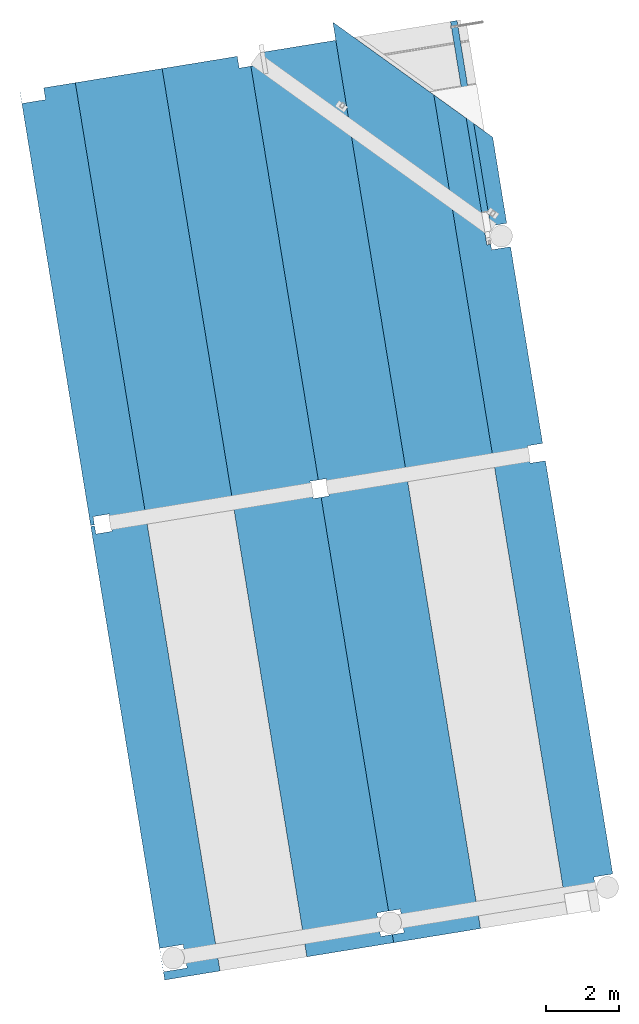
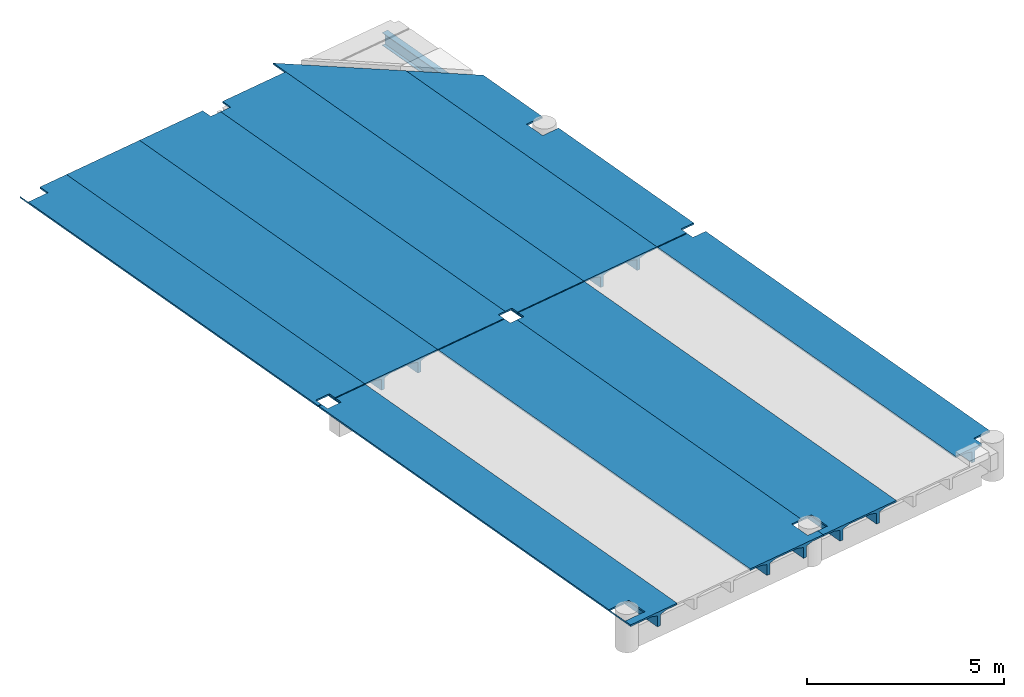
# One storey, part 5 of 5: 11 beams.
"""IFC2X3 building model written with IfcOpenShell, lengths in millimetres."""

from ifc_helpers import new_model, entity, si_unit, converted_unit, derived_unit, direction, frame, origin, origin_with_axes, place, context, subcontext, project, spatial, faceted_brep, material, type_object, element, save


model = new_model("IFC2X3")

# Units and contexts
model_context = context("Model", 3, precision=0.01, world=origin(), true_north=direction((6.12323399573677e-17, 1.0)))
plan_context = context("Plan", 3, precision=1e-05, world=origin_with_axes())
body_context = subcontext(model_context, "Body", "Model", "MODEL_VIEW")
ifc_project = project(units=[converted_unit("PLANEANGLEUNIT", "DEGREE", entity("IfcPositiveLengthMeasure", 0.0174532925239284), si_unit("PLANEANGLEUNIT", "RADIAN"), dimensions=[0, 0, 0, 0, 0, 0, 0]), si_unit("AREAUNIT", "SQUARE_METRE"), si_unit("LENGTHUNIT", "METRE", prefix="MILLI"), si_unit("MASSUNIT", "GRAM", prefix="KILO"), si_unit("POWERUNIT", "WATT"), si_unit("PRESSUREUNIT", "PASCAL", prefix="KILO"), si_unit("FORCEUNIT", "NEWTON", prefix="KILO"), si_unit("ELECTRICVOLTAGEUNIT", "VOLT"), si_unit("ELECTRICCURRENTUNIT", "AMPERE"), si_unit("THERMODYNAMICTEMPERATUREUNIT", "DEGREE_CELSIUS"), si_unit("TIMEUNIT", "SECOND"), si_unit("VOLUMEUNIT", "CUBIC_METRE"), derived_unit("LINEARVELOCITYUNIT", [(si_unit("LENGTHUNIT", "METRE"), 1), (si_unit("TIMEUNIT", "SECOND"), -1)]), derived_unit("VOLUMETRICFLOWRATEUNIT", [(si_unit("VOLUMEUNIT", "CUBIC_METRE"), 1), (si_unit("TIMEUNIT", "SECOND"), -1)]), derived_unit("THERMALTRANSMITTANCEUNIT", [(si_unit("POWERUNIT", "WATT"), 1), (si_unit("THERMODYNAMICTEMPERATUREUNIT", "KELVIN"), -1), (si_unit("AREAUNIT", "SQUARE_METRE"), -1)]), derived_unit("SOUNDPRESSUREUNIT", [(si_unit("PRESSUREUNIT", "PASCAL"), 1)])], contexts=[model_context, plan_context])

# Site, building, storey
site_placement = place(None, frame((5.09380697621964e-08, 5.80416781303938e-08, 0.0), z_axis=(0.0, 0.0, 1.0), x_axis=(-0.160806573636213, 0.986985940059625, 0.0)))
site = spatial("IfcSite", under=ifc_project, at=site_placement, Name="Default", CompositionType="ELEMENT")
building_placement = place(site_placement, frame((0.0, 0.0, 0.0), z_axis=(0.0, 0.0, 1.0), x_axis=(1.0, -2.77555756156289e-17, 0.0)))
building = spatial("IfcBuilding", under=site, at=building_placement, CompositionType="ELEMENT")
storey_placement = place(building_placement, frame((0.0, 0.0, 51360.0000000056), z_axis=(0.0, 0.0, 1.0), x_axis=(1.0, -2.77555756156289e-17, 0.0)))
storey = spatial("IfcBuildingStorey", under=building, at=storey_placement, Name="H01-Nivå D+0,36", CompositionType="ELEMENT", Elevation=51360.0000000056)

# Beams
ifc_material = material(Name="CONCRETE/C45/55")
beam_type_1 = type_object("IfcBeamType", Name="DT450*2400-100-50-1200-0-200-0.3", PredefinedType="NOTDEFINED")
beam_1_placement = place(storey_placement, frame((1004653.56621271, -395180.27532226, 3529.99999999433), z_axis=(0.0, 0.0, 1.0), x_axis=(1.0, -2.77555756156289e-17, 0.0)))
element("IfcBeam", 1, at=beam_1_placement, inside=storey, type_object=beam_type_1, material=ifc_material, Name="DT", ObjectType="DT450*2400-100-50-1200-0-200-0.3", context=body_context, shape_type="Brep", body=[
    faceted_brep([(0.012355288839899, 0.0, 450.0), (0.0, 2400.0, 450.0), (0.0, 2400.0, 400.0), (0.00180181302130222, 2050.0, 400.0), (0.00283142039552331, 1850.0, 340.0), (0.00283142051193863, 1850.0, 0.0), (0.00334622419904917, 1750.0, 0.0), (0.00334622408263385, 1750.0, 340.0), (0.00437583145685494, 1550.0, 400.0), (0.00797945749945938, 850.0, 400.0), (0.00900906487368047, 650.0, 340.0), (0.00900906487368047, 650.0, 0.0), (0.00952386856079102, 550.0, 0.0), (0.00952386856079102, 550.0, 340.0), (0.0105534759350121, 350.0, 400.0), (0.012355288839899, 0.0, 400.0), (12484.9998477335, 2400.06427282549, 400.0), (12484.9998477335, 2400.06427282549, 450.0), (12135.0016688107, 2050.06247102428, 400.0), (11935.0027094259, 1850.06144142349, 340.0), (11935.0027094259, 1850.06144142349, 0.0), (11835.0032297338, 1750.06092662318, 0.0), (11835.0032297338, 1750.06092662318, 340.0), (11635.0042703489, 1550.05989702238, 400.0), (10935.0079125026, 850.056293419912, 400.0), (10735.0089531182, 650.055263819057, 340.0), (10735.0089531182, 650.055263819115, 0.0), (10635.0094734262, 550.054749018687, 0.0), (10635.009473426, 550.054749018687, 340.0), (10435.0105140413, 350.053719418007, 400.0), (10085.0123351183, 0.0519176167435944, 400.0), (10085.0123351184, 0.0519176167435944, 450.0)], [[[0, 1, 2, 3, 4, 5, 6, 7, 8, 9, 10, 11, 12, 13, 14, 15]], [[16, 2, 1, 17]], [[18, 3, 2, 16]], [[19, 4, 3, 18]], [[20, 5, 4, 19]], [[21, 6, 5, 20]], [[22, 7, 6, 21]], [[23, 8, 7, 22]], [[24, 9, 8, 23]], [[25, 10, 9, 24]], [[26, 11, 10, 25]], [[27, 12, 11, 26]], [[28, 13, 12, 27]], [[29, 14, 13, 28]], [[30, 15, 14, 29]], [[31, 0, 15, 30]], [[17, 1, 0, 31]], [[31, 30, 29, 28, 27, 26, 25, 24, 23, 22, 21, 20, 19, 18, 16, 17]]]),
])
beam_2_placement = place(storey_placement, frame((992088.555605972, -392780.330847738, 3529.99999999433), z_axis=(0.0, 0.0, 1.0), x_axis=(1.0, -2.77555756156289e-17, 0.0)))
element("IfcBeam", 2, at=beam_2_placement, inside=storey, type_object=beam_type_1, material=ifc_material, Name="DT", ObjectType="DT450*2400-100-50-1200-0-200-0.3", context=body_context, shape_type="Brep", body=[
    faceted_brep([(224.999945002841, 2400.00115830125, 450.0), (225.00161812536, 2075.00121331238, 450.0), (225.00161812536, 2075.00121331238, 400.0), (224.999945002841, 2400.00115830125, 400.0), (875.001618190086, 2075.00455949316, 450.0), (875.001618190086, 2075.00455949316, 400.0), (874.999945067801, 2400.00450450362, 450.0), (874.999945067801, 2400.00450450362, 400.0), (12535.0097742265, 0.0645302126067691, 400.0), (0.012355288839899, 0.0, 400.0), (0.0105534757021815, 350.0, 400.0), (12535.0079724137, 350.064530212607, 400.0), (0.00952386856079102, 550.0, 340.0), (12535.0069428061, 550.064530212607, 340.0), (0.00952386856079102, 550.0, 0.0), (12535.0069428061, 550.064530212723, 0.0), (0.00900906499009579, 650.0, 0.0), (12535.0064280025, 650.064530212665, 0.0), (0.00900906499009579, 650.0, 340.0), (12535.0064280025, 650.064530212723, 340.0), (0.00797945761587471, 850.0, 400.0), (12535.005398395, 850.064530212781, 400.0), (0.00437583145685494, 1550.0, 400.0), (12535.0017947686, 1550.06453021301, 400.0), (0.00334622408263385, 1750.0, 340.0), (12535.0007651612, 1750.06453021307, 340.0), (0.00334622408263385, 1750.0, 0.0), (12535.0007651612, 1750.06453021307, 0.0), (0.00283142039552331, 1850.0, 0.0), (12535.0002503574, 1850.06453021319, 0.0), (0.00283142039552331, 1850.0, 340.0), (12535.0002503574, 1850.06453021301, 340.0), (0.0018018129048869, 2050.0, 400.0), (12534.9992207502, 2050.06453021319, 400.0), (12309.9999466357, 2400.0633719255, 450.0), (12310.001098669, 2175.06415922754, 450.0), (12310.001098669, 2175.06415922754, 400.0), (12309.9999466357, 2400.0633719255, 400.0), (12535.001098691, 2175.06531752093, 450.0), (12534.9985772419, 2175.06531750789, 400.0), (12535.0097491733, 0.0645302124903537, 450.0), (0.012355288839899, 0.0, 450.0), (0.0, 2400.0, 450.0), (0.0, 2400.0, 400.0)], [[[0, 1, 2, 3]], [[1, 4, 5, 2]], [[4, 6, 7, 5]], [[8, 9, 10, 11]], [[11, 10, 12, 13]], [[13, 12, 14, 15]], [[15, 14, 16, 17]], [[17, 16, 18, 19]], [[19, 18, 20, 21]], [[21, 20, 22, 23]], [[23, 22, 24, 25]], [[25, 24, 26, 27]], [[27, 26, 28, 29]], [[29, 28, 30, 31]], [[31, 30, 32, 33]], [[34, 35, 36, 37]], [[35, 38, 39, 36]], [[38, 40, 8, 11, 13, 15, 17, 19, 21, 23, 25, 27, 29, 31, 33, 39]], [[40, 41, 9, 8]], [[41, 42, 43, 32, 30, 28, 26, 24, 22, 20, 18, 16, 14, 12, 10, 9]], [[3, 43, 42, 0]], [[7, 37, 36, 39, 33, 32, 43, 3, 2, 5]], [[6, 34, 37, 7]], [[1, 0, 42, 41, 40, 38, 35, 34, 6, 4]]]),
])
beam_3_placement = place(storey_placement, frame((992088.545000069, -390380.330847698, 3529.99999999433), z_axis=(0.0, 0.0, 1.0), x_axis=(1.0, -2.77555756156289e-17, 0.0)))
element("IfcBeam", 3, at=beam_3_placement, inside=storey, type_object=beam_type_1, material=ifc_material, Name="DT", ObjectType="DT450*2400-100-50-1200-0-200-0.3", context=body_context, shape_type="Brep", body=[
    faceted_brep([(225.010757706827, 325.001213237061, 450.0), (225.012430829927, 0.00115830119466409, 450.0), (225.012430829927, 0.00115830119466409, 400.0), (225.010757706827, 325.001213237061, 400.0), (875.010757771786, 325.004559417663, 450.0), (875.010757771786, 325.004559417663, 400.0), (875.012430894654, 0.00450450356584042, 400.0), (875.012430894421, 0.0045594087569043, 450.0), (12534.9992207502, 2050.06453021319, 400.0), (0.00180181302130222, 2050.0, 400.0), (0.0, 2400.0, 400.0), (12534.9974189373, 2400.06453021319, 400.0), (12535.0002503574, 1850.06453021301, 340.0), (0.00283142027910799, 1850.0, 340.0), (12535.0002503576, 1850.06453021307, 0.0), (0.00283142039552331, 1850.0, 0.0), (12535.0007651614, 1750.06453021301, 0.0), (0.00334622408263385, 1750.0, 0.0), (12535.0007651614, 1750.06453021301, 340.0), (0.00334622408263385, 1750.0, 340.0), (12535.0017947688, 1550.06453021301, 400.0), (0.00437583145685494, 1550.0, 400.0), (12535.0053983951, 850.064530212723, 400.0), (0.00797945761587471, 850.0, 400.0), (12535.0064280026, 650.064530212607, 340.0), (0.00900906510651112, 650.0, 340.0), (12535.0064280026, 650.064530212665, 0.0), (0.00900906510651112, 650.0, 0.0), (12535.0069428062, 550.064530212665, 0.0), (0.00952386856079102, 550.0, 0.0), (12535.0069428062, 550.064530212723, 340.0), (0.00952386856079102, 550.0, 340.0), (12535.0079724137, 350.064530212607, 400.0), (0.0105534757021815, 350.0, 400.0), (0.012355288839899, 0.0, 450.0), (0.0, 2400.0, 450.0), (0.012355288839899, 0.0, 400.0), (12534.9974189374, 2400.06453021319, 450.0), (12535.009175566, 225.065317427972, 400.0), (12535.009222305, 225.065317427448, 450.000000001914), (12310.0112741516, 225.064159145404, 450.0), (12310.0112741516, 225.064159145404, 400.0), (12310.0124324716, 0.0633719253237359, 450.0), (12310.0124324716, 0.0633719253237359, 400.0)], [[[0, 1, 2, 3]], [[4, 0, 3, 5]], [[6, 7, 4, 5]], [[8, 9, 10, 11]], [[12, 13, 9, 8]], [[14, 15, 13, 12]], [[16, 17, 15, 14]], [[18, 19, 17, 16]], [[20, 21, 19, 18]], [[22, 23, 21, 20]], [[24, 25, 23, 22]], [[26, 27, 25, 24]], [[28, 29, 27, 26]], [[30, 31, 29, 28]], [[32, 33, 31, 30]], [[34, 35, 10, 9, 13, 15, 17, 19, 21, 23, 25, 27, 29, 31, 33, 36]], [[11, 10, 35, 37]], [[38, 32, 30, 28, 26, 24, 22, 20, 18, 16, 14, 12, 8, 11, 37, 39]], [[38, 39, 40, 41]], [[40, 42, 43, 41]], [[6, 43, 42, 7]], [[5, 3, 2, 36, 33, 32, 38, 41, 43, 6]], [[1, 34, 36, 2]], [[7, 42, 40, 39, 37, 35, 34, 1, 0, 4]]]),
])
beam_4_placement = place(storey_placement, frame((1004653.52378906, -385580.275322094, 3529.99999999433), z_axis=(0.0, 0.0, 1.0), x_axis=(1.0, -2.77555756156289e-17, 0.0)))
element("IfcBeam", 4, at=beam_4_placement, inside=storey, type_object=beam_type_1, Name="DT", ObjectType="DT450*2400-100-50-1200-0-200-0.3", context=body_context, shape_type="Brep", body=[
    faceted_brep([(225.005033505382, 1425.0011724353, 400.0), (0.00501933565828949, 1425.00001414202, 400.0), (0.00501933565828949, 1425.00001414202, 450.0), (225.005033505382, 1425.0011724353, 450.0), (0.00733595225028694, 975.000014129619, 400.0), (225.007350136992, 975.001172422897, 400.0), (225.007350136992, 975.001172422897, 450.0), (0.00733595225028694, 975.000014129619, 450.0), (11984.8442050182, 0.0616979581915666, 400.0), (11984.8438539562, 350.061697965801, 400.0), (0.0105534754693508, 350.0, 400.0), (0.012355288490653, 0.0, 400.0), (11984.8492047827, 550.061697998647, 340.0), (0.00952386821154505, 550.0, 340.0), (11984.8438539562, 550.061697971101, 0.0), (0.00952386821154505, 550.0, 0.0), (11984.8438539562, 650.061697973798, 0.0), (0.00900906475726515, 650.0, 0.0), (11984.8438539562, 650.061697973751, 340.0), (0.00900906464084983, 650.0, 340.0), (11984.8450740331, 850.06169798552, 400.0), (0.00797945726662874, 850.0, 400.0), (11984.8438539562, 875.062460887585, 400.0), (11660.0078523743, 875.060778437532, 400.0), (11660.004526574, 1525.06079887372, 400.0), (11984.8438539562, 1525.06247113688, 400.0), (11984.8438539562, 1528.51133203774, 400.0), (0.00448645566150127, 1528.51133203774, 400.0), (0.00448645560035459, 1528.51133203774, 450.0), (11984.8438539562, 0.0616979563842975, 450.0), (0.012355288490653, 0.0, 450.0), (11984.8438539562, 1525.06247113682, 450.0), (11660.004526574, 1525.0607988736, 450.0), (11660.0078523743, 875.060778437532, 450.0), (11984.8438539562, 875.062460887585, 450.0), (11984.8438539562, 1528.51133203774, 450.0), (11984.8438539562, 850.061697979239, 400.0), (11984.8438539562, 550.061697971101, 340.0), (11984.8438539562, 0.0616979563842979, 400.0)], [[[0, 1, 2, 3]], [[4, 5, 6, 7]], [[5, 0, 3, 6]], [[8, 9, 10, 11]], [[9, 12, 13, 10]], [[12, 14, 15, 13]], [[14, 16, 17, 15]], [[16, 18, 19, 17]], [[18, 20, 21, 19]], [[20, 22, 23, 24, 25, 26, 27, 1, 0, 5, 4, 21]], [[27, 28, 2, 1]], [[29, 8, 11, 30]], [[7, 30, 11, 10, 13, 15, 17, 19, 21, 4]], [[31, 25, 24, 32]], [[24, 23, 33, 32]], [[22, 34, 33, 23]], [[28, 35, 31, 32, 33, 34, 29, 30, 7, 6, 3, 2]], [[26, 25, 31, 35]], [[29, 34, 22, 36, 18, 16, 14, 37, 9, 38]], [[35, 28, 27, 26]]], orient=[[False], [False], [False], [False], [False], [False], [False], [False], [False], [False], [False], [False], [False], [False], [False], [False], [False], [False], [False], [False]]),
])
beam_5_placement = place(storey_placement, frame((0.0, 0.0, 0.0), z_axis=(0.0, 0.0, 1.0), x_axis=(1.0, -2.77555756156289e-17, 0.0)))
element("IfcBeam", 5, at=beam_5_placement, inside=storey, type_object=beam_type_1, Name="DT", ObjectType="DT450*2400-100-50-1200-0-200-0.3", context=body_context, shape_type="Brep", body=[
    faceted_brep([(1016638.36764302, -385580.213623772, 3979.99999999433), (1016638.37005031, -387980.213623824, 3979.99999999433), (1004653.54675027, -387980.275322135, 3979.99999999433), (1004653.53439498, -385580.275322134, 3979.99999999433), (1016638.36764302, -387980.213623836, 3929.99999999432), (1004653.54675027, -387980.275322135, 3929.99999999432), (1016638.36764302, -387630.213623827, 3929.99999999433), (1004653.54494845, -387630.275322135, 3929.99999999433), (1016638.37188191, -387430.2136238, 3869.9999999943), (1004653.54391885, -387430.275322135, 3869.9999999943), (1016638.36764302, -387430.213623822, 3529.99999999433), (1004653.54391885, -387430.275322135, 3529.99999999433), (1016638.36764302, -387330.213623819, 3529.99999999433), (1004653.54340404, -387330.275322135, 3529.99999999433), (1016638.36764302, -387330.213623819, 3869.99999999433), (1004653.54340404, -387330.275322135, 3869.99999999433), (1016638.36886311, -387130.213623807, 3929.99999999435), (1004653.54237444, -387130.275322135, 3929.99999999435), (1016638.36764302, -386430.213623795, 3929.99999999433), (1004653.53877081, -386430.275322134, 3929.99999999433), (1016638.37243789, -386230.213623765, 3869.99999999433), (1004653.5377412, -386230.275322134, 3869.99999999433), (1016638.36764302, -386230.213623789, 3529.99999999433), (1004653.5377412, -386230.275322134, 3529.99999999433), (1016638.36764302, -386130.213623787, 3529.99999999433), (1004653.5372264, -386130.275322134, 3529.99999999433), (1016638.36764302, -386130.213623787, 3869.99999999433), (1004653.5372264, -386130.275322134, 3869.99999999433), (1016638.36886311, -385930.213623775, 3929.99999999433), (1004653.53619679, -385930.275322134, 3929.99999999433), (1016638.36764302, -385580.213623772, 3929.99999999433), (1004653.53439498, -385580.275322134, 3929.99999999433), (1016638.36764302, -385930.213623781, 3929.99999999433), (1016638.36764302, -386230.21362379, 3869.99999999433), (1016638.36764302, -387130.213623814, 3929.99999999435), (1016638.36764302, -387430.213623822, 3869.9999999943), (1016638.36764302, -387980.213623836, 3979.99999999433)], [[[0, 1, 2, 3]], [[1, 4, 5, 2]], [[4, 6, 7, 5]], [[6, 8, 9, 7]], [[8, 10, 11, 9]], [[10, 12, 13, 11]], [[12, 14, 15, 13]], [[14, 16, 17, 15]], [[16, 18, 19, 17]], [[18, 20, 21, 19]], [[20, 22, 23, 21]], [[22, 24, 25, 23]], [[24, 26, 27, 25]], [[26, 28, 29, 27]], [[28, 30, 31, 29]], [[30, 0, 3, 31]], [[3, 2, 5, 7, 9, 11, 13, 15, 17, 19, 21, 23, 25, 27, 29, 31]], [[30, 32, 26, 24, 22, 33, 18, 34, 14, 12, 10, 35, 6, 4, 36, 0]]], orient=[[False], [False], [False], [False], [False], [False], [False], [False], [False], [False], [False], [False], [False], [False], [False], [False], [False], [False]]),
])
beam_6_placement = place(storey_placement, frame((1004653.54500089, -390380.274163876, 3529.99999999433), z_axis=(0.0, 0.0, 1.0), x_axis=(1.0, -2.77555756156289e-17, 0.0)))
element("IfcBeam", 6, at=beam_6_placement, inside=storey, type_object=beam_type_1, Name="DT", ObjectType="DT450*2400-100-50-1200-0-200-0.3", context=body_context, shape_type="Brep", body=[
    faceted_brep([(11984.8226421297, 550.060539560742, 340.0), (11984.8226421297, 550.060539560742, 0.0), (0.00952386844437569, 549.99884169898, 0.0), (0.00952386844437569, 549.99884169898, 340.0), (11984.8226421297, 650.060539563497, 0.0), (0.00900906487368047, 649.998841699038, 0.0), (11984.8226421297, 650.060539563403, 340.0), (0.00900906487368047, 649.998841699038, 340.0), (11984.8238622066, 850.060539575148, 400.0), (0.00797945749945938, 849.998841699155, 400.0), (11984.8226421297, 1550.06053958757, 400.0), (0.00437583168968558, 1549.99884169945, 400.0), (11984.826325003, 1750.06053961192, 340.0), (0.00334622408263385, 1749.99884169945, 340.0), (11984.8226421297, 1750.06053959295, 0.0), (0.00334622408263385, 1749.99884169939, 0.0), (11984.8226421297, 1850.06053959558, 0.0), (0.00283142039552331, 1849.9988416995, 0.0), (11984.8226421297, 1850.06053959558, 340.0), (0.00283142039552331, 1849.9988416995, 340.0), (11984.8238622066, 2050.06053960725, 400.0), (0.00180181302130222, 2049.9988416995, 400.0), (11984.8226421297, 2400.06053961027, 400.0), (0.0, 2399.99884169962, 400.0), (11984.8226421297, 2400.06053961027, 450.0), (0.0, 2399.99884169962, 450.0), (11660.0107592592, 325.05962010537, 400.0), (11660.0124323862, 0.0588674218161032, 400.0), (11660.0124323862, 0.0588674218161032, 450.0), (11660.0107592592, 325.05962010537, 450.0), (11984.8226421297, 325.061302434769, 450.0), (11984.8226421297, 325.061302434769, 400.0), (11984.8258950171, 350.060539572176, 400.0), (0.0105534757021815, 349.998841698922, 400.0), (0.0111969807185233, 224.99885579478, 400.0), (225.01127248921, 225.000014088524, 400.0), (225.012430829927, 0.0, 400.0), (0.0111969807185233, 224.99885579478, 450.0), (225.012430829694, 0.0, 450.0), (225.01127248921, 225.000014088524, 450.0), (11984.8226421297, 350.06053955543, 400.0), (11984.8226421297, 2050.06053960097, 400.0), (11984.8226421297, 1750.06053959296, 340.0), (11984.8226421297, 850.060539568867, 400.0)], [[[0, 1, 2, 3]], [[1, 4, 5, 2]], [[4, 6, 7, 5]], [[6, 8, 9, 7]], [[8, 10, 11, 9]], [[10, 12, 13, 11]], [[12, 14, 15, 13]], [[14, 16, 17, 15]], [[16, 18, 19, 17]], [[18, 20, 21, 19]], [[20, 22, 23, 21]], [[22, 24, 25, 23]], [[26, 27, 28, 29]], [[30, 31, 26, 29]], [[32, 0, 3, 33]], [[31, 32, 33, 34, 35, 36, 27, 26]], [[34, 33, 3, 2, 5, 7, 9, 11, 13, 15, 17, 19, 21, 23, 25, 37]], [[24, 30, 29, 28, 38, 39, 37, 25]], [[38, 28, 27, 36]], [[35, 39, 38, 36]], [[35, 34, 37, 39]], [[40, 31, 30, 24, 22, 41, 18, 16, 14, 42, 10, 43, 6, 4, 1, 0]]], orient=[[False], [False], [False], [False], [False], [False], [False], [False], [False], [False], [False], [False], [False], [False], [False], [False], [False], [False], [False], [False], [False], [False]]),
])
beam_7_placement = place(storey_placement, frame((1004653.5567651, -392780.275322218, 3529.99999999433), z_axis=(0.0, 0.0, 1.0), x_axis=(1.0, -2.77555756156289e-17, 0.0)))
element("IfcBeam", 7, at=beam_7_placement, inside=storey, type_object=beam_type_1, Name="DT", ObjectType="DT450*2400-100-50-1200-0-200-0.3", context=body_context, shape_type="Brep", body=[
    faceted_brep([(0.0, 2175.0000141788, 450.0), (0.0111969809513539, 0.0, 450.0), (0.0111969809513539, 0.0, 400.0), (0.00939516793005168, 350.0, 400.0), (0.0083655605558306, 550.0, 340.0), (0.00836556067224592, 550.0, 0.0), (0.00785075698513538, 650.0, 0.0), (0.00785075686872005, 650.0, 340.0), (0.00682114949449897, 850.0, 400.0), (0.00321752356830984, 1550.0, 400.0), (0.00218791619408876, 1750.0, 340.0), (0.00218791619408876, 1750.0, 0.0), (0.00167311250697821, 1850.0, 0.0), (0.00167311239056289, 1850.0, 340.0), (0.000643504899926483, 2050.0, 400.0), (0.0, 2175.0000141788, 400.0), (224.999938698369, 2175.00117247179, 400.0), (224.999938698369, 2175.00117247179, 450.0), (224.998786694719, 2400.00115830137, 400.0), (224.998786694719, 2400.00115830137, 450.0), (11659.9987882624, 2400.06002572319, 400.0), (11659.9987882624, 2400.06002572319, 450.0), (11660.0004408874, 2075.06075807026, 400.0), (11660.0004408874, 2075.06075807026, 450.0), (11984.8108779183, 2075.06243018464, 400.0), (11984.8108779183, 2075.06243018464, 450.0), (11984.8109908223, 2050.06169784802, 400.0), (11984.8121893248, 1850.06169784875, 340.0), (11984.8108779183, 1850.061697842, 0.0), (11984.8109592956, 1750.06169783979, 0.0), (11984.8108779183, 1750.06169783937, 340.0), (11984.8135200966, 1550.06169784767, 400.0), (11984.8112427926, 850.061697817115, 400.0), (11984.8121036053, 650.061697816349, 340.0), (11984.8108779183, 650.061697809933, 0.0), (11984.8109193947, 550.061697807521, 0.0), (11984.8108779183, 550.061697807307, 340.0), (11984.8128745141, 350.061697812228, 400.0), (11984.8109501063, 0.0616977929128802, 400.0), (11984.8108779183, 0.0616977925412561, 450.0), (11984.8108779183, 2050.06169784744, 400.0), (11984.8108779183, 1850.061697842, 340.0), (11984.8108779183, 1750.06169783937, 0.0), (11984.8108779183, 1550.06169783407, 400.0), (11984.8108779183, 850.061697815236, 400.0), (11984.8108779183, 650.061697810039, 340.0), (11984.8108779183, 550.061697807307, 0.0), (11984.8108779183, 350.06169780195, 400.0), (11984.8108779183, 0.0616977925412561, 400.0)], [[[0, 1, 2, 3, 4, 5, 6, 7, 8, 9, 10, 11, 12, 13, 14, 15]], [[15, 16, 17, 0]], [[16, 18, 19, 17]], [[18, 20, 21, 19]], [[20, 22, 23, 21]], [[24, 25, 23, 22]], [[26, 24, 22, 20, 18, 16, 15, 14]], [[27, 26, 14, 13]], [[28, 27, 13, 12]], [[29, 28, 12, 11]], [[30, 29, 11, 10]], [[31, 30, 10, 9]], [[32, 31, 9, 8]], [[33, 32, 8, 7]], [[34, 33, 7, 6]], [[35, 34, 6, 5]], [[36, 35, 5, 4]], [[37, 36, 4, 3]], [[38, 37, 3, 2]], [[39, 38, 2, 1]], [[25, 39, 1, 0, 17, 19, 21, 23]], [[40, 41, 28, 42, 30, 43, 44, 45, 34, 46, 36, 47, 48, 39, 25, 24]]], orient=[[False], [False], [False], [False], [False], [False], [False], [False], [False], [False], [False], [False], [False], [False], [False], [False], [False], [False], [False], [False], [False], [False]]),
])
beam_8_placement = place(storey_placement, frame((992088.523788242, -385580.330847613, 3529.99999999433), z_axis=(0.0, 0.0, 1.0), x_axis=(1.0, -2.77555756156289e-17, 0.0)))
element("IfcBeam", 8, at=beam_8_placement, inside=storey, type_object=beam_type_1, Name="DT", ObjectType="DT450*2400-100-50-1200-0-200-0.3", context=body_context, shape_type="Brep", body=[
    faceted_brep([(225.004525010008, 1525.00121328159, 400.0), (225.007871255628, 875.00121326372, 400.0), (225.007871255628, 875.00121326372, 450.0), (225.004525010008, 1525.00121328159, 450.0), (875.004525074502, 1525.00455946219, 400.0), (875.004525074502, 1525.00455946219, 450.0), (875.007871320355, 875.004559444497, 400.0), (875.007871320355, 875.004559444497, 450.0), (12535.0019054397, 1528.56685755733, 450.0), (12535.0019054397, 1528.56685755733, 400.0), (12535.0024382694, 1425.06531747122, 400.0), (12535.0024382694, 1425.06531747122, 450.0), (0.00448617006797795, 1528.56685755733, 400.0), (0.00797945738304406, 850.0, 400.0), (12535.005398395, 850.064530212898, 400.0), (12535.0055735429, 975.065317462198, 399.999999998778), (12310.0073517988, 975.06415917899, 400.0), (12310.0050351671, 1425.06415919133, 400.0), (0.00900906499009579, 650.0, 340.0), (12535.0064280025, 650.064530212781, 340.0), (0.00900906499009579, 650.0, 0.0), (12535.0064280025, 650.064530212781, 0.0), (0.00952386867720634, 550.0, 0.0), (12535.0069428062, 550.064530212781, 0.0), (0.00952386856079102, 550.0, 340.0), (12535.0069428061, 550.064530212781, 340.0), (0.0105534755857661, 350.0, 400.0), (12535.0079724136, 350.064530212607, 400.0), (0.0123552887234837, 0.0, 400.0), (12535.0097742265, 0.0645302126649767, 400.0), (0.0123552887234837, 0.0, 450.0), (12535.0097742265, 0.0645302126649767, 450.0), (0.00448617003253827, 1528.56685755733, 450.0), (12535.0056476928, 975.065317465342, 450.000000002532), (12310.005035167, 1425.06415919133, 450.0), (12310.0073517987, 975.06415917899, 450.0)], [[[0, 1, 2, 3]], [[4, 0, 3, 5]], [[6, 4, 5, 7]], [[1, 6, 7, 2]], [[8, 9, 10, 11]], [[9, 12, 13, 14, 15, 16, 17, 10], [6, 1, 0, 4]], [[14, 13, 18, 19]], [[19, 18, 20, 21]], [[21, 20, 22, 23]], [[23, 22, 24, 25]], [[25, 24, 26, 27]], [[27, 26, 28, 29]], [[29, 28, 30, 31]], [[12, 32, 30, 28, 26, 24, 22, 20, 18, 13]], [[15, 14, 19, 21, 23, 25, 27, 29, 31, 33]], [[32, 8, 11, 34, 35, 33, 31, 30], [7, 5, 3, 2]], [[17, 34, 11, 10]], [[17, 16, 35, 34]], [[16, 15, 33, 35]], [[32, 12, 9, 8]]], orient=[[False], [False], [False], [False], [False], [False, False], [False], [False], [False], [False], [False], [False], [False], [False], [False], [False, False], [False], [False], [False], [False]]),
])
beam_9_placement = place(storey_placement, frame((1004653.57681862, -397580.275322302, 3529.99999999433), z_axis=(0.0, 0.0, 1.0), x_axis=(1.0, -2.77555756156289e-17, 0.0)))
element("IfcBeam", 9, at=beam_9_placement, inside=storey, type_object=beam_type_1, Name="DT", ObjectType="DT450*2400-100-50-1200-0-200-0.3", context=body_context, shape_type="Brep", body=[
    faceted_brep([(5660.00722250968, 1001.19126550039, 400.0), (5660.00722250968, 1001.19126550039, 450.0), (5660.00452575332, 1525.02953402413, 450.0), (5660.00452575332, 1525.02953402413, 400.0), (6310.00452581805, 1525.03288020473, 400.0), (6310.00452581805, 1525.03288020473, 450.0), (6310.00722259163, 1001.19126550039, 450.0), (6310.00722259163, 1001.19126550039, 400.0), (10084.9999981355, 2400.05191761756, 450.0), (0.0, 2400.0, 450.0), (0.0, 2400.0, 400.0), (10084.9999981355, 2400.05191761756, 400.0), (0.00180181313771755, 2050.0, 400.0), (9735.00181921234, 2050.0501158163, 400.0), (0.00283142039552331, 1850.0, 340.0), (9535.00285982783, 1850.04908621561, 340.0), (0.00283142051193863, 1850.0, 0.0), (9535.00285982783, 1850.04908621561, 0.0), (0.00334622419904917, 1750.0, 0.0), (9435.0033801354, 1750.04857141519, 0.0), (0.00334622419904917, 1750.0, 340.0), (9435.00338013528, 1750.04857141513, 340.0), (0.00437583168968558, 1550.0, 400.0), (9235.00442075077, 1550.04754181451, 400.0), (225.007215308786, 1001.19126550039, 400.0), (8686.15382566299, 1001.19126550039, 400.0), (0.00501933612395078, 1425.00001414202, 400.0), (225.005033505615, 1425.00117243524, 400.0), (0.0050193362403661, 1425.00001414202, 450.0), (225.005033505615, 1425.00117243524, 450.0), (225.007215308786, 1001.19126550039, 450.0), (8686.15382566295, 1001.19126550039, 450.0)], [[[0, 1, 2, 3]], [[4, 3, 2, 5]], [[6, 7, 4, 5]], [[8, 9, 10, 11]], [[11, 10, 12, 13]], [[13, 12, 14, 15]], [[15, 14, 16, 17]], [[17, 16, 18, 19]], [[19, 18, 20, 21]], [[21, 20, 22, 23]], [[24, 0, 3, 4, 7, 25, 23, 22, 26, 27]], [[26, 22, 20, 18, 16, 14, 12, 10, 9, 28]], [[27, 26, 28, 29]], [[30, 24, 27, 29]], [[31, 6, 5, 2, 1, 30, 29, 28, 9, 8]], [[25, 31, 8, 11, 13, 15, 17, 19, 21, 23]], [[24, 30, 1, 0]], [[31, 25, 7, 6]]], orient=[[False], [False], [False], [False], [False], [False], [False], [False], [False], [False], [False], [False], [False], [False], [False], [False], [False], [False]]),
])
beam_10_placement = place(storey_placement, frame((992653.576817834, -397580.328351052, 3529.99999999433), z_axis=(0.0, 0.0, 1.0), x_axis=(1.0, -2.77555756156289e-17, 0.0)))
element("IfcBeam", 10, at=beam_10_placement, inside=storey, type_object=beam_type_1, Name="DT", ObjectType="DT450*2400-100-50-1200-0-200-0.3", context=body_context, shape_type="Brep", body=[
    faceted_brep([(325.004524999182, 1525.00169351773, 400.0), (0.00450453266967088, 1524.99999905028, 400.0), (0.00450453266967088, 1524.99999905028, 450.0), (325.004524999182, 1525.00169351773, 450.0), (325.007221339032, 1001.24429425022, 450.0), (325.007221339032, 1001.24429425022, 400.0), (11745.0072169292, 1001.24429425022, 400.0), (11745.0050350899, 1425.06121508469, 400.0), (11970.0037516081, 1425.06237337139, 400.0), (11970.0031081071, 1550.06162159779, 400.0), (0.00437583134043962, 1550.0, 400.0), (11970.0020784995, 1750.06162159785, 340.0), (0.00334622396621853, 1750.0, 340.0), (11970.0020784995, 1750.06162159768, 0.0), (0.00334622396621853, 1750.0, 0.0), (11970.0015636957, 1850.06162159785, 0.0), (0.00283142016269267, 1850.0, 0.0), (11970.0015636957, 1850.06162159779, 340.0), (0.00283142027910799, 1850.0, 340.0), (11970.0005340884, 2050.06162159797, 400.0), (0.0018018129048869, 2050.0, 400.0), (11969.9987322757, 2400.06162159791, 400.0), (0.0, 2400.0, 400.0), (11969.9987322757, 2400.06162159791, 450.0), (0.0, 2400.0, 450.0), (11970.0037516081, 1425.06237337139, 450.0), (11745.0050350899, 1425.06121508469, 450.0), (11745.0072169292, 1001.24429425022, 450.0)], [[[0, 1, 2, 3]], [[4, 5, 0, 3]], [[5, 6, 7, 8, 9, 10, 1, 0]], [[11, 12, 10, 9]], [[13, 14, 12, 11]], [[15, 16, 14, 13]], [[17, 18, 16, 15]], [[19, 20, 18, 17]], [[21, 22, 20, 19]], [[23, 24, 22, 21]], [[25, 23, 21, 19, 17, 15, 13, 11, 9, 8]], [[7, 26, 25, 8]], [[6, 27, 26, 7]], [[1, 10, 12, 14, 16, 18, 20, 22, 24, 2]], [[27, 4, 3, 2, 24, 23, 25, 26]], [[27, 6, 5, 4]]], orient=[[False], [False], [False], [False], [False], [False], [False], [False], [False], [False], [False], [False], [False], [False], [False], [False]]),
])
beam_type_2 = type_object("IfcBeamType", Name="IPE400", PredefinedType="NOTDEFINED")
beam_11_placement = place(storey_placement, frame((1010465.58103081, -396130.247806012, 3394.99999999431), z_axis=(0.0, 0.0, 1.0), x_axis=(1.0, -2.77555756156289e-17, 0.0)))
element("IfcBeam", 11, at=beam_11_placement, inside=storey, type_object=beam_type_2, Name="STÅLBJELKE", ObjectType="IPE400", context=body_context, shape_type="Brep", body=[
    faceted_brep([(356.000623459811, 60.0000000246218, 386.500000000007), (0.000617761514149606, 59.9981673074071, 386.500000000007), (0.00061776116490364, 59.9981673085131, 400.0), (356.000623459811, 60.0000000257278, 400.0), (356.000932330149, 2.70083546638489e-08, 400.0), (356.000932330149, 0.0, 386.500000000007), (6172.78727637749, 0.0299448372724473, 0.0), (6172.78661220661, 180.029944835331, 0.0), (896.000000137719, 180.002779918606, 0.0), (896.000926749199, 0.00277992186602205, 0.0), (6172.78661220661, 0.0299448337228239, 13.5000000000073), (896.000926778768, 0.00277992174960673, 13.5000000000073), (6172.78661220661, 180.029944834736, 386.500000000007), (6172.78661220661, 180.029944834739, 400.0), (0.0, 179.998167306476, 400.0), (0.0, 179.998167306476, 386.500000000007), (6172.78691490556, 94.3299450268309, 386.500000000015), (0.000441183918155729, 94.298167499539, 386.500000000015), (6172.78661220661, 180.029944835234, 13.5000000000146), (6172.78692846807, 94.3299450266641, 13.5000000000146), (896.000441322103, 94.3027801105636, 13.5000000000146), (896.000000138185, 180.00277991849, 13.5000000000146), (0.000441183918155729, 94.2981674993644, 165.0), (896.0004413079, 94.3027801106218, 165.0), (0.000485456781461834, 85.6981671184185, 165.0), (896.000485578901, 85.702779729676, 165.0), (6172.78661220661, 85.7299446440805, 386.500000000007), (6172.78661220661, 85.7299446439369, 13.5000000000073), (896.00048559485, 85.702779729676, 13.5000000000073), (0.000485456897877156, 85.6981671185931, 386.500000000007), (6172.78661220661, 0.0299448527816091, 400.0), (6172.78661220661, 0.0299448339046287, 386.500000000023), (6172.78661220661, 94.3299450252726, 386.500000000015), (6172.78661220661, 94.329945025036, 13.5000000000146), (6172.78661220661, 0.0299448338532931, 0.0)], [[[0, 1, 2, 3]], [[0, 3, 4, 5]], [[6, 7, 8, 9]], [[10, 6, 9, 11]], [[12, 13, 14, 15]], [[16, 12, 15, 17]], [[18, 19, 20, 21]], [[19, 16, 17, 22, 23, 20]], [[23, 22, 24, 25]], [[26, 27, 28, 25, 24, 29]], [[27, 10, 11, 28]], [[11, 9, 8, 21, 20, 23, 25, 28]], [[7, 18, 21, 8]], [[30, 31, 5, 4]], [[31, 26, 29, 1, 0, 5]], [[1, 29, 24, 22, 17, 15, 14, 2]], [[13, 30, 4, 3, 2, 14]], [[10, 27, 26, 31, 30, 13, 12, 32, 33, 18, 7, 34]]], orient=[[False], [False], [False], [False], [False], [False], [False], [False], [False], [False], [False], [False], [False], [False], [False], [False], [False], [False]]),
])

save(model, "model.ifc")
